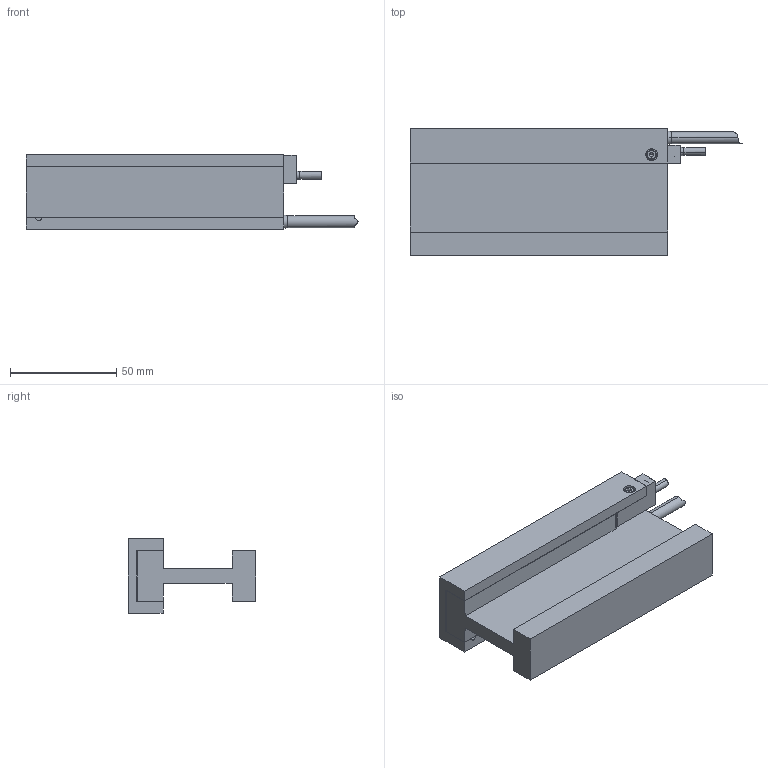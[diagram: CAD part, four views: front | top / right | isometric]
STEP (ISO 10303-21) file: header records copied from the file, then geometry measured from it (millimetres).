
FILE_DESCRIPTION (( 'STEP AP214' ), '1' );
FILE_NAME ('DX30F-C2 -REV.step', '2022-05-06T02:56:42', ( '' ), ( '' ), 'SwSTEP 2.0', 'SolidWorks 2020', '' );
FILE_SCHEMA (( 'AUTOMOTIVE_DESIGN' ));
Length unit declared in the file: millimetre
Products named in the file (1): DX30F-C2 -REV
Bounding box: 156 x 60 x 35 mm (x, y, z)
Volume: 129655.5 mm3; surface area: 43886.5 mm2
Topology: 7 solids, 8 shells, 182 faces, 426 edges, 254 vertices
Faces by surface type: plane 89, cylinder 53, cone 32, torus 8
Entity records: 7141 total; most frequent: CARTESIAN_POINT 934, DIRECTION 890, ORIENTED_EDGE 804, EDGE_CURVE 402, AXIS2_PLACEMENT_3D 318, VERTEX_POINT 254, VECTOR 254, LINE 254
